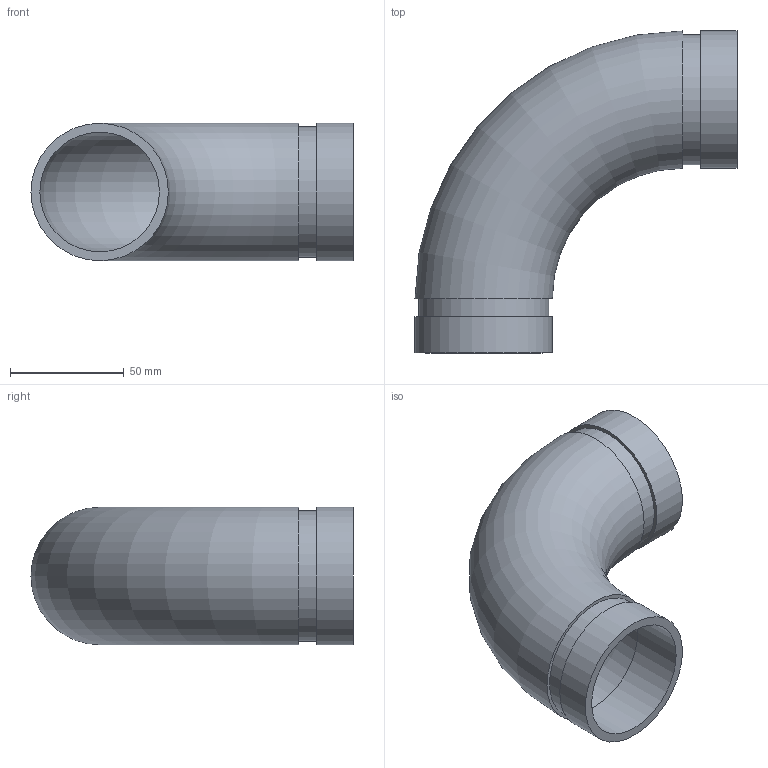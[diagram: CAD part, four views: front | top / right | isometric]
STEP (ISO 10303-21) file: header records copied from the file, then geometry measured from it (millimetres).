
FILE_DESCRIPTION(/* description */ ('VIC SS ELBOW 90 DEG LR No 410DX (OGS)'),/* implementation_level */ '2;1');
FILE_NAME(/* name */ 'C:\Files for Export\SS Duplex\STEP\Victaulic_SS-OGS_Elb 90 Deg LR_No 410DX (OGS)\Victaulic_SS-OGS_Elb 90 Deg LR_No 410DX (OGS)_2 (50).stp',/* time_stamp */ '2024-08-28T10:36:24+02:00',/* author */ ('CORINNE GRAY'),/* organization */ ('Victaulic'),/* preprocessor_version */ 'ST-DEVELOPER v18.1',/* originating_system */ 'Autodesk Inventor 2020',/* authorisation */ '');
FILE_SCHEMA (('AUTOMOTIVE_DESIGN { 1 0 10303 214 3 1 1 }'));
Length unit declared in the file: inch
Products named in the file (1): 410DX-02.0
Bounding box: 141.41 x 141.41 x 60.33 mm (x, y, z)
Volume: 123578.6 mm3; surface area: 67966.9 mm2
Topology: 1 solids, 1 shells, 14 faces, 30 edges, 22 vertices
Faces by surface type: cylinder 6, plane 6, torus 2
Full cylindrical faces by diameter (mm): 52.502 x2, 57.15 x2, 60.325 x2
Entity records: 467 total; most frequent: DIRECTION 84, CARTESIAN_POINT 67, ORIENTED_EDGE 60, AXIS2_PLACEMENT_3D 39, EDGE_CURVE 30, CIRCLE 24, VERTEX_POINT 22, EDGE_LOOP 20
